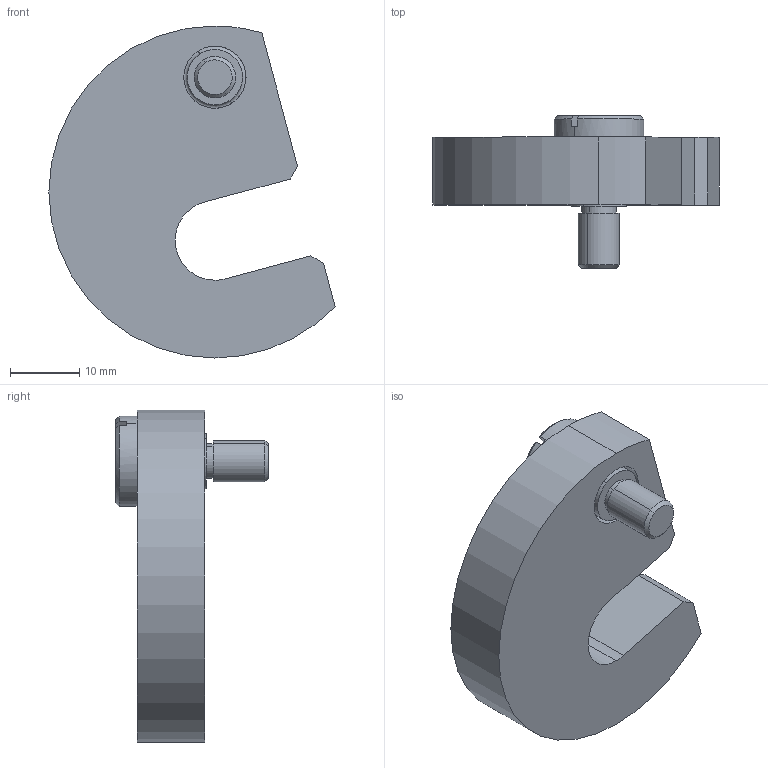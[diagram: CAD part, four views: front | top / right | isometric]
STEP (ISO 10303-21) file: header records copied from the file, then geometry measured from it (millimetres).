
FILE_DESCRIPTION (( 'STEP AP203' ), '1' );
FILE_NAME ('3662.W010.step', '2009-12-03T10:14:17', ( 'Wixroyd' ), ( 'Wixroyd' ), 'SwSTEP 2.0', 'SolidWorks 2009', '' );
FILE_SCHEMA (( 'CONFIG_CONTROL_DESIGN' ));
Length unit declared in the file: millimetre
Products named in the file (3): Part1_3662W010; Part2_3670W006; 3662.W010
Assembly tree (2 placements, depth 2):
  3662.W010
    Part1_3662W010
    Part2_3670W006
Bounding box: 41.38 x 22.1 x 48 mm (x, y, z)
Volume: 12835.2 mm3; surface area: 5233.1 mm2
Topology: 2 solids, 2 shells, 38 faces, 89 edges, 58 vertices
Faces by surface type: plane 17, cylinder 15, cone 4, torus 2
Entity records: 1416 total; most frequent: DIRECTION 213, CARTESIAN_POINT 202, ORIENTED_EDGE 178, EDGE_CURVE 89, AXIS2_PLACEMENT_3D 85, VERTEX_POINT 58, EDGE_LOOP 43, LINE 43
